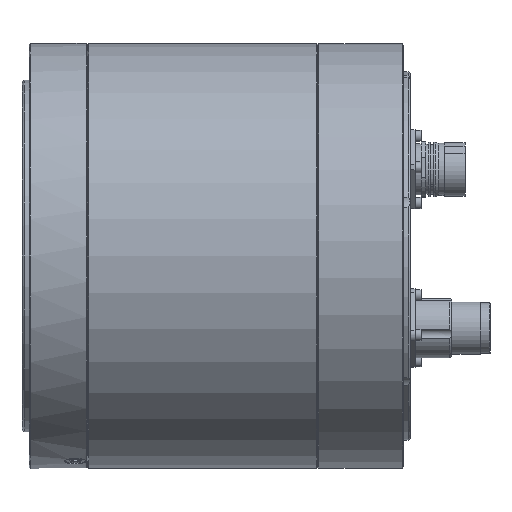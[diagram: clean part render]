
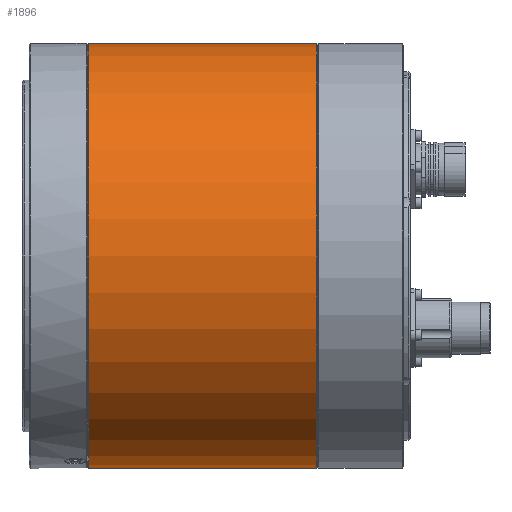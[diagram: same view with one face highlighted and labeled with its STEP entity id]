
A CAD part, front view. The second image highlights one B-rep face of the part: STEP entity #1896.
In plain terms, the highlighted cylindrical face has radius 89.5 mm (diameter 179 mm), a full revolution.
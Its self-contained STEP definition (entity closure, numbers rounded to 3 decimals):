
#1896 = ADVANCED_FACE( '', ( #3944, #3945 ), #3946, .T. );
#3944 = FACE_OUTER_BOUND( '', #6047, .T. );
#3945 = FACE_OUTER_BOUND( '', #6048, .T. );
#3946 = CYLINDRICAL_SURFACE( '', #6049, 89.5 );
#6047 = EDGE_LOOP( '', ( #9661 ) );
#6048 = EDGE_LOOP( '', ( #9662 ) );
#6049 = AXIS2_PLACEMENT_3D( '', #9663, #9664, #9665 );
#9661 = ORIENTED_EDGE( '', *, *, #11138, .T. );
#9662 = ORIENTED_EDGE( '', *, *, #11293, .T. );
#9663 = CARTESIAN_POINT( '', ( 0., -60., 0. ) );
#9664 = DIRECTION( '', ( 0., 1., 0. ) );
#9665 = DIRECTION( '', ( 0., 0., -1. ) );
#11138 = EDGE_CURVE( '', #13910, #13910, #13911, .F. );
#11293 = EDGE_CURVE( '', #14104, #14104, #14105, .F. );
#13910 = VERTEX_POINT( '', #16540 );
#13911 = CIRCLE( '', #16541, 89.5 );
#14104 = VERTEX_POINT( '', #16833 );
#14105 = CIRCLE( '', #16834, 89.5 );
#16540 = CARTESIAN_POINT( '', ( 0., 96.5, 89.5 ) );
#16541 = AXIS2_PLACEMENT_3D( '', #18931, #18932, #18933 );
#16833 = CARTESIAN_POINT( '', ( 0., 0.5, -89.5 ) );
#16834 = AXIS2_PLACEMENT_3D( '', #19103, #19104, #19105 );
#18931 = CARTESIAN_POINT( '', ( 0., 96.5, 0. ) );
#18932 = DIRECTION( '', ( 0., 1., 0. ) );
#18933 = DIRECTION( '', ( 0., 0., 1. ) );
#19103 = CARTESIAN_POINT( '', ( 0., 0.5, 0. ) );
#19104 = DIRECTION( '', ( 0., -1., 0. ) );
#19105 = DIRECTION( '', ( 0., 0., -1. ) );
